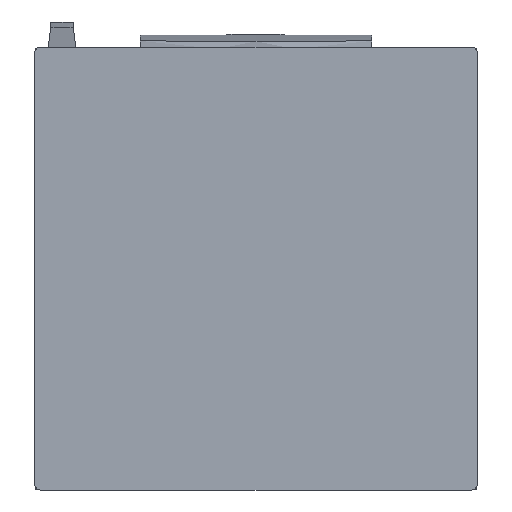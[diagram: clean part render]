
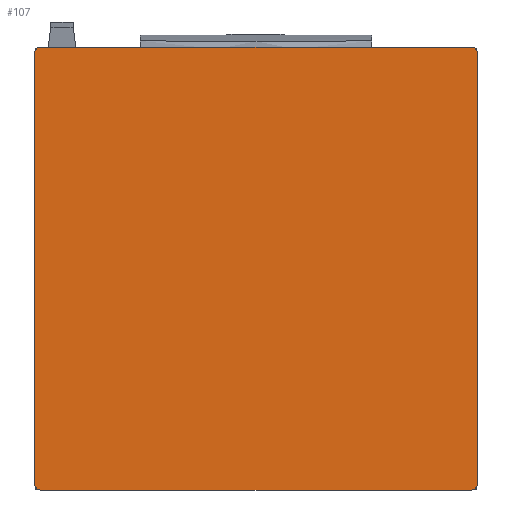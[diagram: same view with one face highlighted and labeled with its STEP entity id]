
A CAD part, front view. The second image highlights one B-rep face of the part: STEP entity #107.
In plain terms, the highlighted planar face has unit normal (0, -1, 0).
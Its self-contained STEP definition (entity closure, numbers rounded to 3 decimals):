
#107=ADVANCED_FACE('Corps de pi\X2\00E8\X0\ce.1',(#221),#222,.T.);
#221=FACE_OUTER_BOUND('',#478,.T.);
#222=PLANE('',#479);
#478=EDGE_LOOP('',(#905,#906,#907,#908,#909,#910,#911,#912));
#479=AXIS2_PLACEMENT_3D('',#913,#914,#915);
#905=ORIENTED_EDGE('',*,*,#1052,.T.);
#906=ORIENTED_EDGE('',*,*,#1050,.T.);
#907=ORIENTED_EDGE('',*,*,#1048,.T.);
#908=ORIENTED_EDGE('',*,*,#1046,.T.);
#909=ORIENTED_EDGE('',*,*,#1044,.T.);
#910=ORIENTED_EDGE('',*,*,#1042,.T.);
#911=ORIENTED_EDGE('',*,*,#1040,.T.);
#912=ORIENTED_EDGE('',*,*,#1053,.T.);
#913=CARTESIAN_POINT('',(-400.0,-221.0,300.0));
#914=DIRECTION('',(0.0,-1.0,0.0));
#915=DIRECTION('',(0.0,0.0,-1.0));
#1040=EDGE_CURVE('',#1260,#1262,#1264,.T.);
#1042=EDGE_CURVE('',#1265,#1260,#1267,.F.);
#1044=EDGE_CURVE('',#1268,#1265,#1270,.T.);
#1046=EDGE_CURVE('',#1271,#1268,#1273,.F.);
#1048=EDGE_CURVE('',#1274,#1271,#1276,.T.);
#1050=EDGE_CURVE('',#1277,#1274,#1279,.F.);
#1052=EDGE_CURVE('',#1280,#1277,#1282,.T.);
#1053=EDGE_CURVE('',#1262,#1280,#1283,.F.);
#1260=VERTEX_POINT('',#1738);
#1262=VERTEX_POINT('',#1741);
#1264=LINE('',#1744,#1745);
#1265=VERTEX_POINT('',#1746);
#1267=CIRCLE('',#1749,8.6);
#1268=VERTEX_POINT('',#1750);
#1270=LINE('',#1753,#1754);
#1271=VERTEX_POINT('',#1755);
#1273=CIRCLE('',#1758,8.6);
#1274=VERTEX_POINT('',#1759);
#1276=LINE('',#1762,#1763);
#1277=VERTEX_POINT('',#1764);
#1279=CIRCLE('',#1767,8.6);
#1280=VERTEX_POINT('',#1768);
#1282=LINE('',#1771,#1772);
#1283=CIRCLE('',#1773,8.6);
#1738=CARTESIAN_POINT('',(293.9,-221.0,302.5));
#1741=CARTESIAN_POINT('',(-293.9,-221.0,302.5));
#1744=CARTESIAN_POINT('',(0.,-221.0,302.5));
#1745=VECTOR('',#1919,1.0);
#1746=CARTESIAN_POINT('',(302.5,-221.0,293.9));
#1749=AXIS2_PLACEMENT_3D('',#1921,#1922,#1923);
#1750=CARTESIAN_POINT('',(302.5,-221.0,-293.9));
#1753=CARTESIAN_POINT('',(302.5,-221.0,0.));
#1754=VECTOR('',#1925,1.0);
#1755=CARTESIAN_POINT('',(293.9,-221.0,-302.5));
#1758=AXIS2_PLACEMENT_3D('',#1927,#1928,#1929);
#1759=CARTESIAN_POINT('',(-293.9,-221.0,-302.5));
#1762=CARTESIAN_POINT('',(0.,-221.0,-302.5));
#1763=VECTOR('',#1931,1.0);
#1764=CARTESIAN_POINT('',(-302.5,-221.0,-293.9));
#1767=AXIS2_PLACEMENT_3D('',#1933,#1934,#1935);
#1768=CARTESIAN_POINT('',(-302.5,-221.0,293.9));
#1771=CARTESIAN_POINT('',(-302.5,-221.0,0.));
#1772=VECTOR('',#1937,1.0);
#1773=AXIS2_PLACEMENT_3D('',#1938,#1939,#1940);
#1919=DIRECTION('',(-1.0,0.0,0.0));
#1921=CARTESIAN_POINT('',(293.9,-221.0,293.9));
#1922=DIRECTION('',(0.0,1.0,-0.0));
#1923=DIRECTION('',(1.0,0.0,0.0));
#1925=DIRECTION('',(0.0,0.0,1.0));
#1927=CARTESIAN_POINT('',(293.9,-221.0,-293.9));
#1928=DIRECTION('',(0.0,1.0,-0.0));
#1929=DIRECTION('',(1.0,0.0,0.0));
#1931=DIRECTION('',(1.0,0.0,0.0));
#1933=CARTESIAN_POINT('',(-293.9,-221.0,-293.9));
#1934=DIRECTION('',(0.0,1.0,-0.0));
#1935=DIRECTION('',(1.0,0.0,0.0));
#1937=DIRECTION('',(0.0,0.0,-1.0));
#1938=CARTESIAN_POINT('',(-293.9,-221.0,293.9));
#1939=DIRECTION('',(0.0,1.0,-0.0));
#1940=DIRECTION('',(1.0,0.0,0.0));
